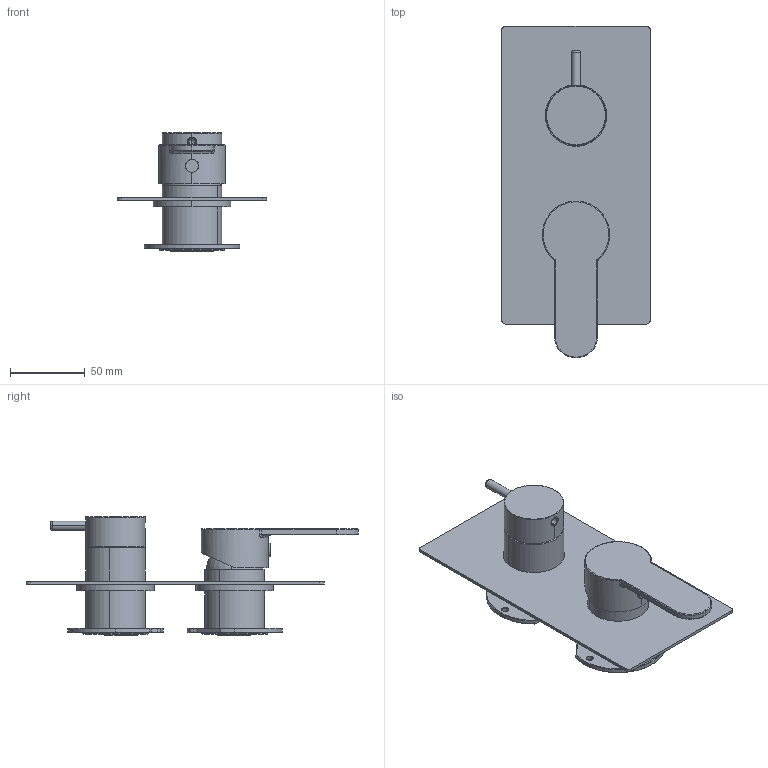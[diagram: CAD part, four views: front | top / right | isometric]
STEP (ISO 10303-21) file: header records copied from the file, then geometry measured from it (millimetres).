
FILE_DESCRIPTION (( 'STEP AP203' ), '1' );
FILE_NAME ('EMD2.STEP', '2024-02-08T09:48:22', ( '' ), ( '' ), 'SwSTEP 2.0', 'SolidWorks 2023', '' );
FILE_SCHEMA (( 'CONFIG_CONTROL_DESIGN' ));
Length unit declared in the file: millimetre
Products named in the file (23): C10.00.0011; C28.1829.00.0; C31.00.0006.01; C12.00.0057; C23.1878.01; C24.1833.00.0; C11.14.0007; C25.2695.00; C24.1828.00.0; AS756_00; C24.0075.00.0; EMD2; C24.1879.00.0; AS747_00; AS1078; C25.2056.00.0; AS743_00; C24.1830.00.0; C24.1837.00.0; C25.1173.00.0; C47.00.0015; C47.00.0118.01; C10.00.0015
Assembly tree (23 placements, depth 4):
  EMD2
    AS1078
      C25.2695.00
      C25.2056.00.0  x2
    AS743_00
      C24.0075.00.0
      C10.00.0011
      C24.1833.00.0
      C24.1828.00.0
      C28.1829.00.0
      AS756_00
        C24.1879.00.0
        C25.1173.00.0
        C23.1878.01
        C11.14.0007
    AS747_00
      C47.00.0015
      C10.00.0015
      C24.1830.00.0
      C12.00.0057
      C24.1837.00.0
      C31.00.0006.01
    C47.00.0118.01
Bounding box: 100 x 222.7 x 79.3 mm (x, y, z)
Volume: 188600.7 mm3; surface area: 134406.9 mm2
Topology: 22 solids, 22 shells, 1007 faces, 2321 edges, 1364 vertices
Faces by surface type: cylinder 399, plane 258, cone 159, torus 111, bspline 48, sphere 32
Entity records: 32458 total; most frequent: CARTESIAN_POINT 7245, DIRECTION 5213, ORIENTED_EDGE 4486, EDGE_CURVE 2243, AXIS2_PLACEMENT_3D 2152, VERTEX_POINT 1346, CIRCLE 1178, EDGE_LOOP 1115
